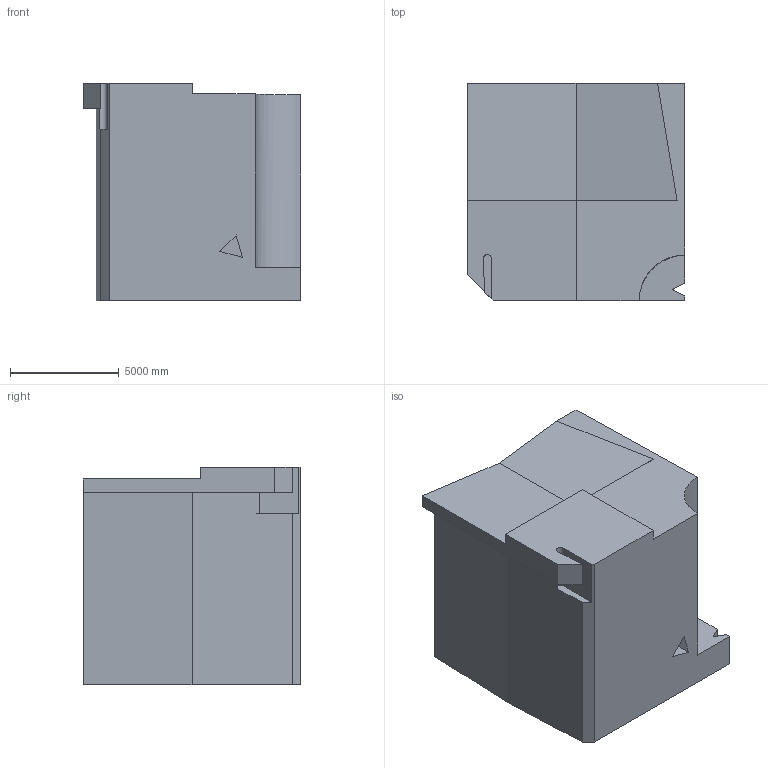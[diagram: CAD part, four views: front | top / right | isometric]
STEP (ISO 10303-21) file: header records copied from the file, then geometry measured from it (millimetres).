
FILE_DESCRIPTION (( 'STEP AP203' ), '1' );
FILE_NAME ('175.STEP', '2022-09-06T13:32:57', ( 'user' ), ( '' ), 'SwSTEP 2.0', 'SolidWorks 2021', '' );
FILE_SCHEMA (( 'CONFIG_CONTROL_DESIGN' ));
Length unit declared in the file: centimetre
Products named in the file (1): 175
Bounding box: 10000 x 10000 x 10000 mm (x, y, z)
Volume: 844373285424.9 mm3; surface area: 589269371.8 mm2
Topology: 1 solids, 1 shells, 29 faces, 77 edges, 51 vertices
Faces by surface type: plane 27, cylinder 2
Entity records: 963 total; most frequent: CARTESIAN_POINT 161, ORIENTED_EDGE 154, DIRECTION 139, EDGE_CURVE 77, LINE 73, VECTOR 73, VERTEX_POINT 51, AXIS2_PLACEMENT_3D 33
